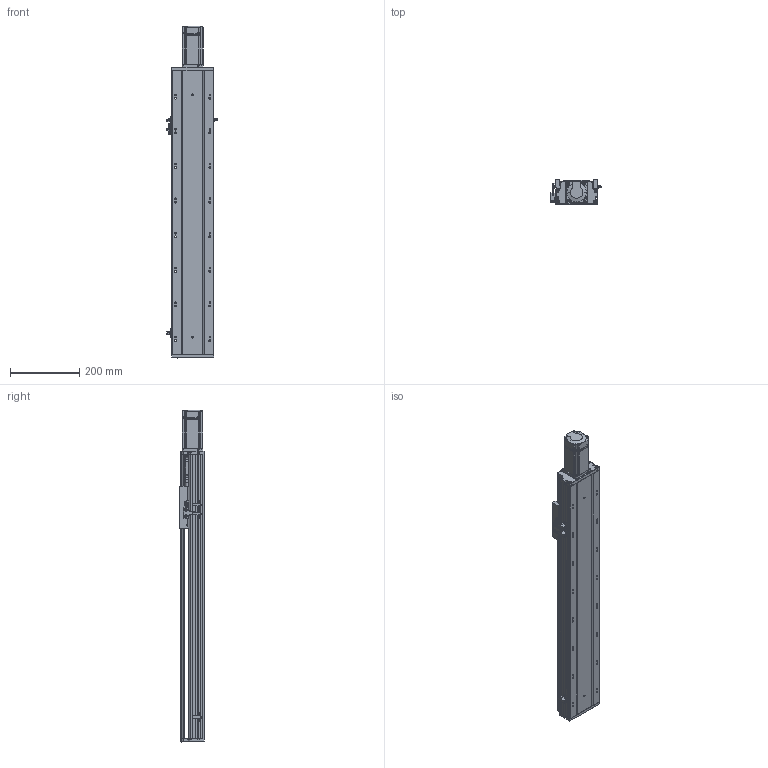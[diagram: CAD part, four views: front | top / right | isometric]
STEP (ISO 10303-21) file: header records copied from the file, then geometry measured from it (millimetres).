
FILE_DESCRIPTION (( 'STEP AP203' ), '1' );
FILE_NAME ('RYK120-L1610-S550-M40-C3-MK.STEP', '2026-03-09T07:39:21', ( '' ), ( '' ), 'SwSTEP 2.0', 'SolidWorks 2016', '' );
FILE_SCHEMA (( 'CONFIG_CONTROL_DESIGN' ));
Length unit declared in the file: millimetre
Products named in the file (17): 44-49-12-14; RYK120-L1610-S550-M40-C3-MK; RY120电机端支撑座-压铸加工-M5; RYK120-300-MK-菁釱-啞_550; RYK120-300-MK-奻裔啣-啞_550; RYK170-薊粣ん芵隴裔啣; RY120-16螺母油路-集中注油组合; RY120QGB-1.8; 滅袉蝶18-24; CB╱T 3762-1996[锥形润滑油嘴1-ZM10×1]_1-ZM10×1; RY120外置感应片(140共用）; 覜茼ん672; 2.10.1.C521-V1.0RY120臏賑輸16蹟譫-啞-JZZY-NRL-L1899; 滅袉蝶18-10; 侂狟400W侜督萇儂; RY120綴裔啣; 15
Assembly tree (21 placements, depth 3):
  RYK120-L1610-S550-M40-C3-MK
    RYK120-300-MK-菁釱-啞_550
    RYK120-300-MK-奻裔啣-啞_550
    RY120綴裔啣
    滅袉蝶18-24  x2
    滅袉蝶18-10  x2
    覜茼ん672  x3
    RY120外置感应片(140共用）
    RY120QGB-1.8
    RY120-16螺母油路-集中注油组合
      2.10.1.C521-V1.0RY120臏賑輸16蹟譫-啞-JZZY-NRL-L1899
      CB╱T 3762-1996[锥形润滑油嘴1-ZM10×1]_1-ZM10×1  x2
    RY120电机端支撑座-压铸加工-M5
    RYK170-薊粣ん芵隴裔啣
    44-49-12-14
    侂狟400W侜督萇儂
      15
Bounding box: 145.7 x 73 x 958.5 mm (x, y, z)
Volume: 2712305.5 mm3; surface area: 924546.4 mm2
Topology: 23 solids, 23 shells, 2612 faces, 7274 edges, 4663 vertices
Faces by surface type: plane 1211, cylinder 1021, cone 253, bspline 127
Entity records: 87672 total; most frequent: CARTESIAN_POINT 25608, ORIENTED_EDGE 13080, DIRECTION 11907, EDGE_CURVE 6540, VERTEX_POINT 4275, AXIS2_PLACEMENT_3D 4086, LINE 3735, VECTOR 3735
